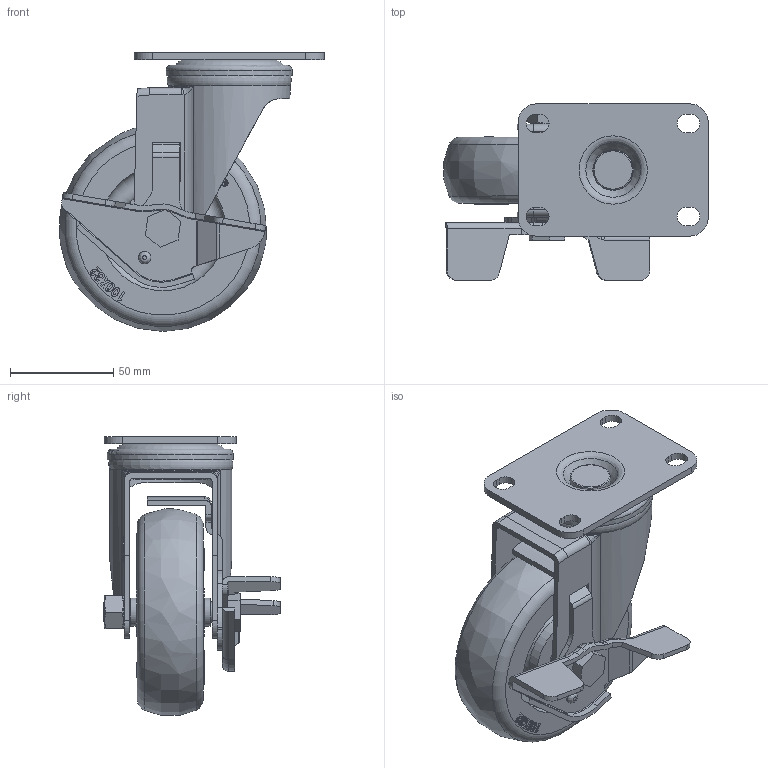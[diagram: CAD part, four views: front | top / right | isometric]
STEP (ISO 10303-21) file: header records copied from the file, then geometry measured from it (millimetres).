
FILE_DESCRIPTION(/* description */ (''),/* implementation_level */ '2;1');
FILE_NAME(/* name */ '20A39_4_F.stp',/* time_stamp */ '2023-08-04T10:31:53+08:00',/* author */ (''),/* organization */ (''),/* preprocessor_version */ 'ST-DEVELOPER v14',/* originating_system */ 'SIEMENS PLM Software NX 8.0',/* authorisation */ '');
FILE_SCHEMA (('AUTOMOTIVE_DESIGN { 1 0 10303 214 3 1 1 1 }'));
Length unit declared in the file: millimetre
Products named in the file (1): 20A39_4_F
Bounding box: 127.95 x 85.5 x 134.93 mm (x, y, z)
Volume: 294137.2 mm3; surface area: 92805.1 mm2
Topology: 1 solids, 2 shells, 797 faces, 2183 edges, 1443 vertices
Faces by surface type: plane 489, cylinder 169, sphere 40, torus 39, bspline 26, extrusion 24, cone 10
Full cylindrical faces by diameter (mm): 2.841 x1, 3.44 x1, 4.1 x1, 6 x1, 10 x2, 10.2 x2, 12 x1, 12.2 x1, 12.496 x1, 13.6 x2, 16 x1, 23 x2, 30.122 x1, 40.5 x2, 45.996 x1, 54 x1, 56 x1, 57.6 x1, 59 x1, 60.5 x2, 61 x1
Entity records: 27974 total; most frequent: CARTESIAN_POINT 9359, ORIENTED_EDGE 3936, DIRECTION 3514, EDGE_CURVE 1968, VERTEX_POINT 1337, AXIS2_PLACEMENT_3D 1207, VECTOR 1100, LINE 1076
